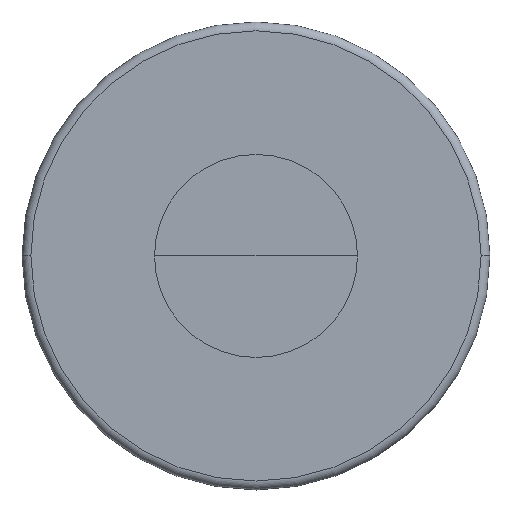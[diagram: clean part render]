
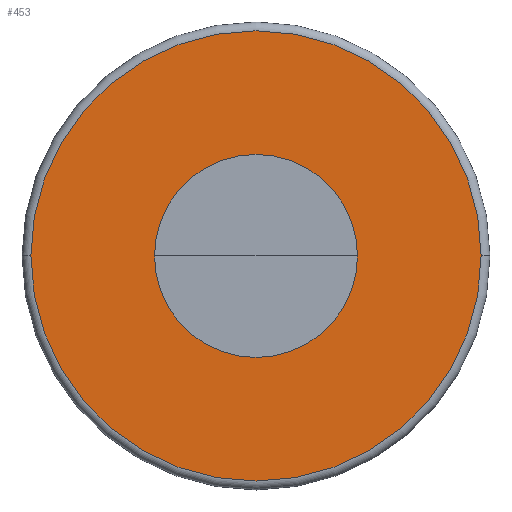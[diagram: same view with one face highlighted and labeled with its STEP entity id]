
A CAD part, top view. The second image highlights one B-rep face of the part: STEP entity #453.
In plain terms, the highlighted planar face has unit normal (0, 0, 1).
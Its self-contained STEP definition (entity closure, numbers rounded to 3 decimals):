
#9=CARTESIAN_POINT('',(0.,0.,0.863));
#10=DIRECTION('',(0.,0.,-1.));
#11=DIRECTION('',(1.,0.,0.));
#12=AXIS2_PLACEMENT_3D('',#9,#10,#11);
#14=CARTESIAN_POINT('',(0.,0.,0.863));
#15=DIRECTION('',(0.,0.,1.));
#16=DIRECTION('',(1.,0.,0.));
#17=AXIS2_PLACEMENT_3D('',#14,#15,#16);
#19=CARTESIAN_POINT('',(0.,0.,0.863));
#20=DIRECTION('',(0.,0.,-1.));
#21=DIRECTION('',(1.,0.,0.));
#22=AXIS2_PLACEMENT_3D('',#19,#20,#21);
#24=CARTESIAN_POINT('',(0.,0.,0.863));
#25=DIRECTION('',(0.,0.,-1.));
#26=DIRECTION('',(-1.,0.,0.));
#27=AXIS2_PLACEMENT_3D('',#24,#25,#26);
#372=CARTESIAN_POINT('',(0.575,0.,0.863));
#374=VERTEX_POINT('',#372);
#375=CARTESIAN_POINT('',(-0.575,0.,0.863));
#376=VERTEX_POINT('',#375);
#398=CARTESIAN_POINT('',(1.275,0.,0.863));
#399=CARTESIAN_POINT('',(-1.275,0.,0.863));
#400=VERTEX_POINT('',#398);
#401=VERTEX_POINT('',#399);
#438=CARTESIAN_POINT('',(0.,0.,0.863));
#439=DIRECTION('',(0.,0.,1.));
#440=DIRECTION('',(-1.,0.,0.));
#441=AXIS2_PLACEMENT_3D('',#438,#439,#440);
#442=PLANE('',#441);
#444=ORIENTED_EDGE('',*,*,#443,.T.);
#446=ORIENTED_EDGE('',*,*,#445,.T.);
#447=EDGE_LOOP('',(#444,#446));
#448=FACE_OUTER_BOUND('',#447,.F.);
#449=ORIENTED_EDGE('',*,*,#432,.F.);
#450=ORIENTED_EDGE('',*,*,#416,.T.);
#451=EDGE_LOOP('',(#449,#450));
#452=FACE_BOUND('',#451,.F.);
#453=ADVANCED_FACE('',(#448,#452),#442,.T.);
#13=CIRCLE('',#12,0.575);
#18=CIRCLE('',#17,0.575);
#23=CIRCLE('',#22,1.275);
#28=CIRCLE('',#27,1.275);
#416=EDGE_CURVE('',#374,#376,#18,.T.);
#432=EDGE_CURVE('',#374,#376,#13,.T.);
#443=EDGE_CURVE('',#400,#401,#23,.T.);
#445=EDGE_CURVE('',#401,#400,#28,.T.);
